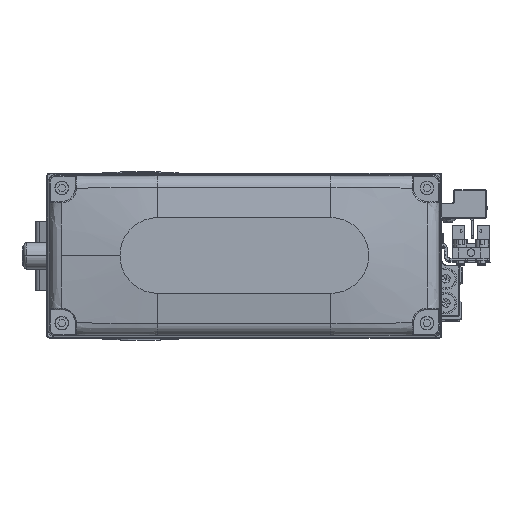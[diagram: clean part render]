
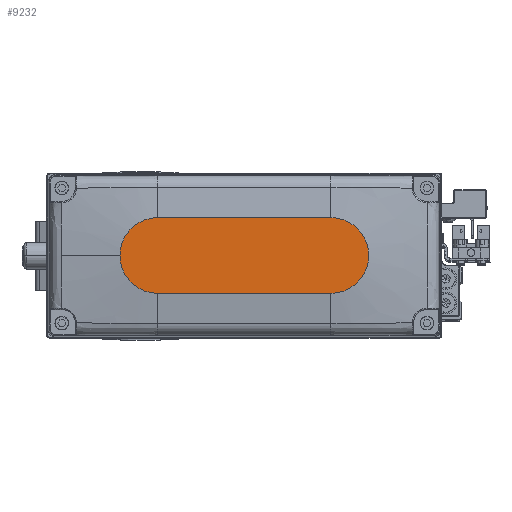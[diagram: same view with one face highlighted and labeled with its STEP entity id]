
A CAD part, top view. The second image highlights one B-rep face of the part: STEP entity #9232.
In plain terms, the highlighted planar face has unit normal (0, 0, 1).
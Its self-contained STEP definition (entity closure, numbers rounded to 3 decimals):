
#2406 = CIRCLE ( 'NONE', #27567, 14. ) ;
#2528 = CIRCLE ( 'NONE', #27687, 14. ) ;
#4201 = ORIENTED_EDGE ( 'NONE', *, *, #8236, .T. ) ;
#4885 = LINE ( 'NONE', #18643, #15713 ) ;
#5060 = CARTESIAN_POINT ( 'NONE',  ( -32., -14., 35. ) ) ;
#5066 = CARTESIAN_POINT ( 'NONE',  ( 32., -14., 35. ) ) ;
#5299 = DIRECTION ( 'NONE',  ( 0., 0., 1. ) ) ;
#5415 = DIRECTION ( 'NONE',  ( 1., 0., 0. ) ) ;
#6370 = EDGE_LOOP ( 'NONE', ( #4201, #29171, #35846, #24705, #15170 ) ) ;
#8236 = EDGE_CURVE ( 'NONE', #12302, #24057, #4885, .T. ) ;
#8255 = CARTESIAN_POINT ( 'NONE',  ( -32., 0., 35. ) ) ;
#8694 = FACE_OUTER_BOUND ( 'NONE', #6370, .T. ) ;
#8720 = CARTESIAN_POINT ( 'NONE',  ( -32., 14., 35. ) ) ;
#9132 = DIRECTION ( 'NONE',  ( 1., 0., 0. ) ) ;
#9232 = ADVANCED_FACE ( 'NONE', ( #8694 ), #22439, .T. ) ;
#9357 = CARTESIAN_POINT ( 'NONE',  ( 46., 0., 35. ) ) ;
#9656 = DIRECTION ( 'NONE',  ( 1., 0., 0. ) ) ;
#10325 = EDGE_CURVE ( 'NONE', #24057, #13053, #2528, .T. ) ;
#12302 = VERTEX_POINT ( 'NONE', #34521 ) ;
#13053 = VERTEX_POINT ( 'NONE', #5060 ) ;
#14106 = EDGE_CURVE ( 'NONE', #31243, #12302, #38616, .T. ) ;
#15170 = ORIENTED_EDGE ( 'NONE', *, *, #14106, .T. ) ;
#15699 = AXIS2_PLACEMENT_3D ( 'NONE', #36172, #5299, #19073 ) ;
#15713 = VECTOR ( 'NONE', #32363, 1000. ) ;
#17017 = EDGE_CURVE ( 'NONE', #13053, #35423, #26231, .T. ) ;
#18643 = CARTESIAN_POINT ( 'NONE',  ( -32., 14., 35. ) ) ;
#19073 = DIRECTION ( 'NONE',  ( 1., 0., 0. ) ) ;
#19215 = AXIS2_PLACEMENT_3D ( 'NONE', #26780, #40510, #9656 ) ;
#22007 = DIRECTION ( 'NONE',  ( 0., 0., 1. ) ) ;
#22439 = PLANE ( 'NONE',  #15699 ) ;
#22543 = CARTESIAN_POINT ( 'NONE',  ( 32., 0., 35. ) ) ;
#24057 = VERTEX_POINT ( 'NONE', #8720 ) ;
#24705 = ORIENTED_EDGE ( 'NONE', *, *, #37255, .T. ) ;
#26231 = LINE ( 'NONE', #39977, #33973 ) ;
#26780 = CARTESIAN_POINT ( 'NONE',  ( 32., 0., 35. ) ) ;
#27567 = AXIS2_PLACEMENT_3D ( 'NONE', #22543, #36281, #5415 ) ;
#27687 = AXIS2_PLACEMENT_3D ( 'NONE', #8255, #22007, #35747 ) ;
#29171 = ORIENTED_EDGE ( 'NONE', *, *, #10325, .T. ) ;
#31243 = VERTEX_POINT ( 'NONE', #9357 ) ;
#32363 = DIRECTION ( 'NONE',  ( -1., 0., 0. ) ) ;
#33973 = VECTOR ( 'NONE', #9132, 1000. ) ;
#34521 = CARTESIAN_POINT ( 'NONE',  ( 32., 14., 35. ) ) ;
#35423 = VERTEX_POINT ( 'NONE', #5066 ) ;
#35747 = DIRECTION ( 'NONE',  ( 1., 0., 0. ) ) ;
#35846 = ORIENTED_EDGE ( 'NONE', *, *, #17017, .T. ) ;
#36172 = CARTESIAN_POINT ( 'NONE',  ( 0., 0., 35. ) ) ;
#36281 = DIRECTION ( 'NONE',  ( 0., 0., 1. ) ) ;
#37255 = EDGE_CURVE ( 'NONE', #35423, #31243, #2406, .T. ) ;
#38616 = CIRCLE ( 'NONE', #19215, 14. ) ;
#39977 = CARTESIAN_POINT ( 'NONE',  ( -32., -14., 35. ) ) ;
#40510 = DIRECTION ( 'NONE',  ( 0., 0., 1. ) ) ;
